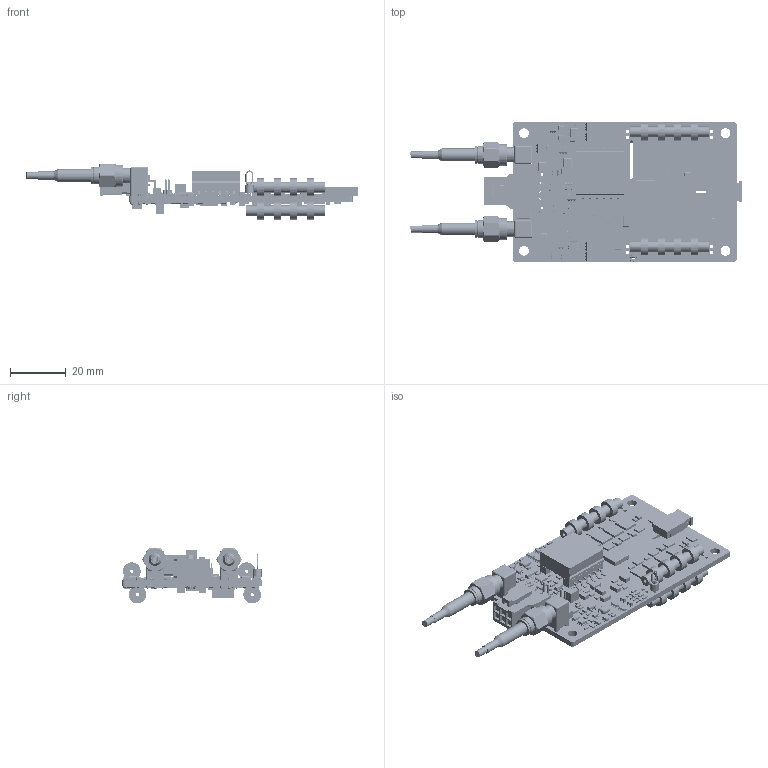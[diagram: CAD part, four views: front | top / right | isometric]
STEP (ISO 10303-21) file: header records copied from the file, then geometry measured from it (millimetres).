
FILE_DESCRIPTION(('Open CASCADE Model'),'2;1');
FILE_NAME('Open CASCADE Shape Model','2024-12-16T13:07:45',('Author'),( 'Open CASCADE'),'Open CASCADE STEP processor 7.5','Open CASCADE 7.5' ,'Unknown');
FILE_SCHEMA(('AUTOMOTIVE_DESIGN { 1 0 10303 214 1 1 1 1 }'));
Length unit declared in the file: millimetre
Products named in the file (650): PCB; Board; Open CASCADE STEP translator 7.5 1.1.1; X5; BM06B-SRSS-TB; C61; 6652545568; Terminal; Open CASCADE STEP translator 6.8 11.1.1; Open CASCADE STEP translator 6.8 11.1.2; Mid_Body; Open CASCADE STEP translator 6.8 11.2.1; R74; 6652545728; Open CASCADE STEP translator 6.8 13.2.1; Mark; X3; BHSR-02VS-1(N); Conn_JST_SM02B-BHSS-1-TB_LF_SN_eec; base; pins; R113; 6652547648; Open CASCADE STEP translator 6.8 4.2.1; L34; DLW21SN921SK2L--3DModel-STEP-56544; L33; DD14; 6652559328; Body; Open CASCADE STEP translator 6.8 47.1.1; Leader; C77; 6652558448; Open CASCADE STEP translator 7.5 5.1.1; Open CASCADE STEP translator 7.5 5.1.2; Mid Body; Open CASCADE STEP translator 7.5 5.2.1; C76; 6652558848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
Assembly tree (998 placements, depth 5):
  PCB
    Board
      Open CASCADE STEP translator 7.5 1.1.1
    X5
      BM06B-SRSS-TB
    C61
      6652545568
        Terminal
          Open CASCADE STEP translator 6.8 11.1.1
          Open CASCADE STEP translator 6.8 11.1.2
        Mid_Body
          Open CASCADE STEP translator 6.8 11.2.1
    R74
      6652545728
        Mid_Body
        Terminal  x2
          Open CASCADE STEP translator 6.8 13.2.1
        Mark
    X3
      BHSR-02VS-1(N)
      Conn_JST_SM02B-BHSS-1-TB_LF_SN_eec
        base
        pins
    R113
      6652547648
        Mid_Body
        Terminal  x2
          Open CASCADE STEP translator 6.8 4.2.1
        Mark
    L34
      DLW21SN921SK2L--3DModel-STEP-56544
    L33
      DLW21SN921SK2L--3DModel-STEP-56544
    DD14
      6652559328
        Body
          Open CASCADE STEP translator 6.8 47.1.1
        Leader  x5
    C77
      6652558448
        Terminal
          Open CASCADE STEP translator 7.5 5.1.1
          Open CASCADE STEP translator 7.5 5.1.2
        Mid Body
          Open CASCADE STEP translator 7.5 5.2.1
    C76
      6652558848
        Terminal
          Open CASCADE STEP translator 7.5 5.1.1
          Open CASCADE STEP translator 7.5 5.1.2
        Mid Body
          Open CASCADE STEP translator 7.5 5.2.1
    C75
      6652558848
        Terminal
          Open CASCADE STEP translator 7.5 5.1.1
          Open CASCADE STEP translator 7.5 5.1.2
        Mid Body
          Open CASCADE STEP translator 7.5 5.2.1
    C74
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Bounding box: 118.61 x 50 x 19.65 mm (x, y, z)
Volume: 17671.2 mm3; surface area: 27063.1 mm2
Topology: 1311 solids, 1316 shells, 18115 faces, 42078 edges, 25725 vertices
Faces by surface type: plane 12181, cylinder 4153, sphere 936, torus 478, bspline 306, cone 58, extrusion 3
Full cylindrical faces by diameter (mm): 0.17 x1, 0.362 x3, 0.388 x2, 0.8 x4, 1 x24, 1.2 x11, 1.5 x8, 3 x1, 3.5 x4
Entity records: 169878 total; most frequent: CARTESIAN_POINT 38594, DIRECTION 24576, ORIENTED_EDGE 23309, EDGE_CURVE 11656, VECTOR 8530, LINE 8528, AXIS2_PLACEMENT_3D 8023, VERTEX_POINT 7360
